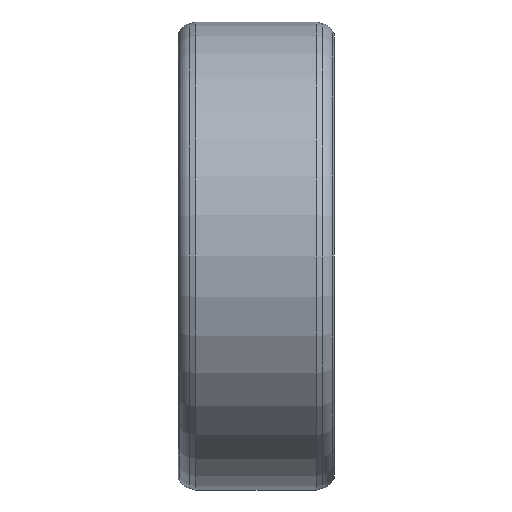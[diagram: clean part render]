
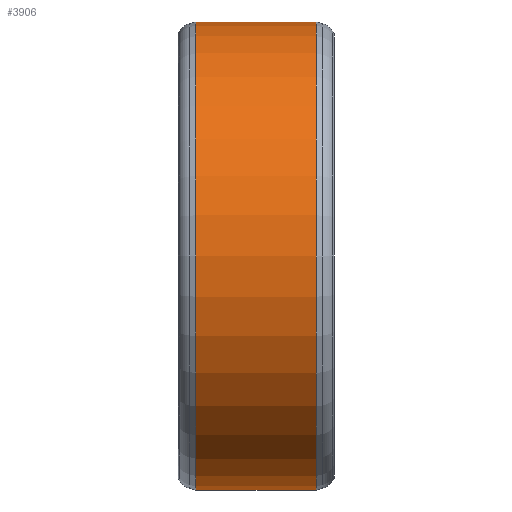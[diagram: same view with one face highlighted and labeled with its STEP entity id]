
A CAD part, front view. The second image highlights one B-rep face of the part: STEP entity #3906.
In plain terms, the highlighted cylindrical face has radius 12 mm (diameter 24 mm), a partial arc.
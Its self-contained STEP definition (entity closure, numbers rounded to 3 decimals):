
#962=CARTESIAN_POINT('',(-45.766,28.368,0.));
#963=DIRECTION('',(1.,0.,0.));
#964=DIRECTION('',(0.,0.,1.));
#965=AXIS2_PLACEMENT_3D('',#962,#963,#964);
#967=DIRECTION('',(1.,0.,0.));
#968=VECTOR('',#967,6.2);
#969=CARTESIAN_POINT('',(-51.966,28.368,-12.));
#970=LINE('',#969,#968);
#971=DIRECTION('',(1.,0.,0.));
#972=VECTOR('',#971,6.2);
#973=CARTESIAN_POINT('',(-51.966,28.368,12.));
#974=LINE('',#973,#972);
#2618=CARTESIAN_POINT('',(-51.966,28.368,0.));
#2619=DIRECTION('',(-1.,0.,0.));
#2620=DIRECTION('',(0.,0.,-1.));
#2621=AXIS2_PLACEMENT_3D('',#2618,#2619,#2620);
#3167=CARTESIAN_POINT('',(-51.966,28.368,-12.));
#3169=VERTEX_POINT('',#3167);
#3173=CARTESIAN_POINT('',(-45.766,28.368,-12.));
#3174=CARTESIAN_POINT('',(-45.766,28.368,12.));
#3175=VERTEX_POINT('',#3173);
#3176=VERTEX_POINT('',#3174);
#3197=CARTESIAN_POINT('',(-51.966,28.368,12.));
#3198=VERTEX_POINT('',#3197);
#3892=CARTESIAN_POINT('',(-48.866,28.368,0.));
#3893=DIRECTION('',(-1.,0.,0.));
#3894=DIRECTION('',(0.,0.,1.));
#3895=AXIS2_PLACEMENT_3D('',#3892,#3893,#3894);
#3896=CYLINDRICAL_SURFACE('',#3895,12.);
#3898=ORIENTED_EDGE('',*,*,#3897,.F.);
#3900=ORIENTED_EDGE('',*,*,#3899,.T.);
#3902=ORIENTED_EDGE('',*,*,#3901,.T.);
#3903=ORIENTED_EDGE('',*,*,#3885,.T.);
#3904=EDGE_LOOP('',(#3898,#3900,#3902,#3903));
#3905=FACE_OUTER_BOUND('',#3904,.F.);
#3906=ADVANCED_FACE('',(#3905),#3896,.T.);
#966=CIRCLE('',#965,12.);
#2622=CIRCLE('',#2621,12.);
#3885=EDGE_CURVE('',#3176,#3175,#966,.T.);
#3897=EDGE_CURVE('',#3169,#3175,#970,.T.);
#3899=EDGE_CURVE('',#3169,#3198,#2622,.T.);
#3901=EDGE_CURVE('',#3198,#3176,#974,.T.);
